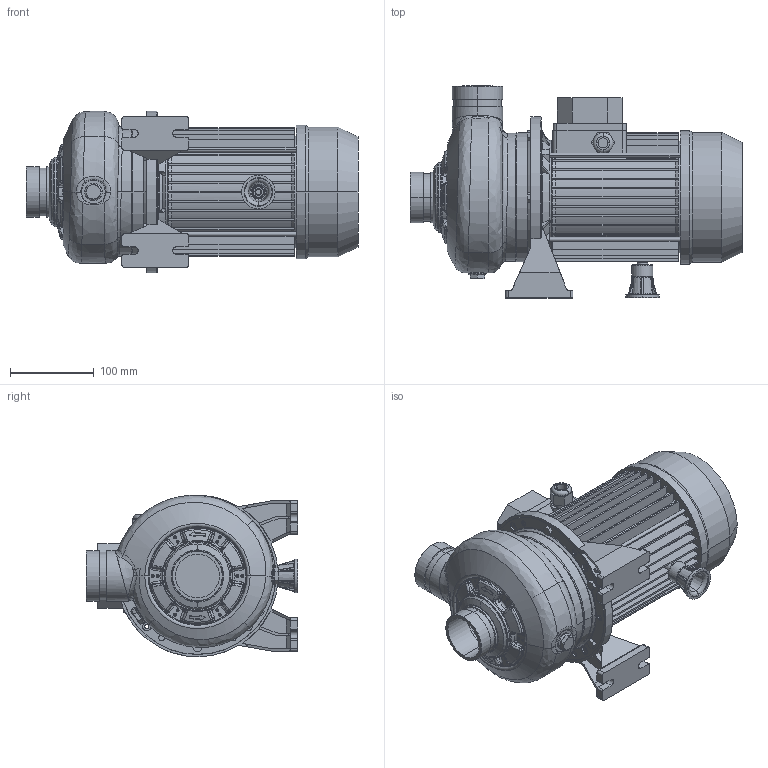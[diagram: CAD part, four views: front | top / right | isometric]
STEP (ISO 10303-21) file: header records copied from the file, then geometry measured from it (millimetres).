
FILE_DESCRIPTION((''),'2;1');
FILE_NAME('DWC_V_500_1_5_IE3_ASM','2016-10-26T',('rosa'),('"Ebara Pumps Europe +39.444.706811"'),'PRO/ENGINEER BY PARAMETRIC TECHNOLOGY CORPORATION, 2012130','PRO/ENGINEER BY PARAMETRIC TECHNOLOGY CORPORATION, 2012130','');
FILE_SCHEMA(('AUTOMOTIVE_DESIGN { 1 0 10303 214 1 1 1 1 }'));
Length unit declared in the file: millimetre
Products named in the file (12): MEC_80X130_IE3; 80596; 251420991; 10054; 76006; 40032; 62074; 10189; 20105_ASM; 72011; 72028; DWC_V_500_1_5_IE3_ASM
Assembly tree (13 placements, depth 3):
  DWC_V_500_1_5_IE3_ASM
    MEC_80X130_IE3
    80596
    20105_ASM
      251420991
      10054
      76006  x2
      40032  x2
      62074
      10189
    72011
    72028
Bounding box: 396.5 x 253 x 192.93 mm (x, y, z)
Volume: 2801755.4 mm3; surface area: 697025.7 mm2
Topology: 12 solids, 12 shells, 1674 faces, 4048 edges, 2452 vertices
Faces by surface type: plane 509, bspline 434, cylinder 310, torus 210, cone 165, sphere 42, extrusion 4
Entity records: 89479 total; most frequent: CARTESIAN_POINT 39744, ORIENTED_EDGE 7914, DIRECTION 6879, EDGE_CURVE 3957, PRESENTATION_STYLE_ASSIGNMENT 3910, STYLED_ITEM 3910, CURVE_STYLE 3901, AXIS2_PLACEMENT_3D 2857
